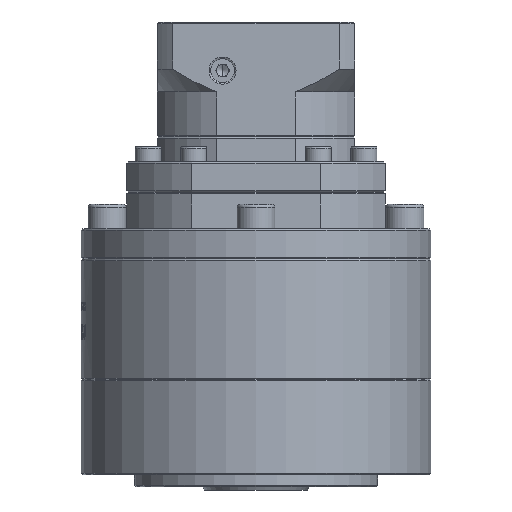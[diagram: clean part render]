
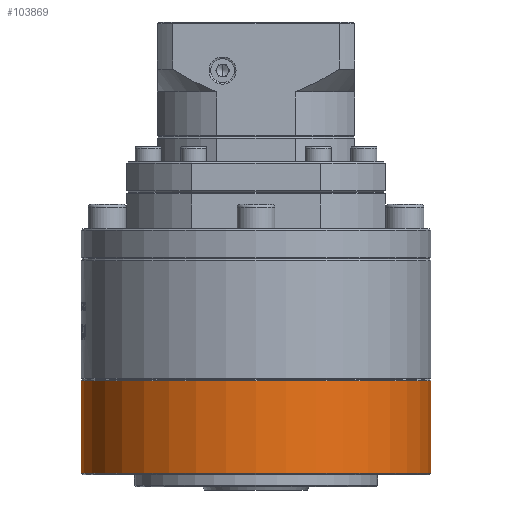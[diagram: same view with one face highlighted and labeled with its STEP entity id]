
A CAD part, left-side view. The second image highlights one B-rep face of the part: STEP entity #103869.
In plain terms, the highlighted cylindrical face has radius 57.5 mm (diameter 115 mm), a partial arc.
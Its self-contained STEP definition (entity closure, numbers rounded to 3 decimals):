
#1457 = CARTESIAN_POINT ( 'NONE',  ( -62.264, -50.367, -126.744 ) ) ;
#2781 = VERTEX_POINT ( 'NONE', #12498 ) ;
#9995 = FACE_OUTER_BOUND ( 'NONE', #44448, .T. ) ;
#11323 = CARTESIAN_POINT ( 'NONE',  ( -62.264, -50.367, -157.244 ) ) ;
#12498 = CARTESIAN_POINT ( 'NONE',  ( -62.264, 64.633, -126.744 ) ) ;
#16187 = EDGE_CURVE ( 'NONE', #30879, #2781, #50716, .T. ) ;
#16917 = CARTESIAN_POINT ( 'NONE',  ( -62.264, 7.133, -144.744 ) ) ;
#20384 = VECTOR ( 'NONE', #57710, 1000. ) ;
#22492 = ORIENTED_EDGE ( 'NONE', *, *, #23731, .T. ) ;
#22743 = VECTOR ( 'NONE', #65053, 1000. ) ;
#23302 = LINE ( 'NONE', #114246, #20384 ) ;
#23731 = EDGE_CURVE ( 'NONE', #28279, #60980, #23302, .T. ) ;
#23950 = ORIENTED_EDGE ( 'NONE', *, *, #34034, .F. ) ;
#27565 = CARTESIAN_POINT ( 'NONE',  ( -62.264, 7.133, -157.244 ) ) ;
#28279 = VERTEX_POINT ( 'NONE', #11323 ) ;
#30879 = VERTEX_POINT ( 'NONE', #62307 ) ;
#33377 = AXIS2_PLACEMENT_3D ( 'NONE', #16917, #63834, #73722 ) ;
#34034 = EDGE_CURVE ( 'NONE', #2781, #60980, #51156, .T. ) ;
#36575 = CARTESIAN_POINT ( 'NONE',  ( -62.264, 64.633, -144.744 ) ) ;
#37016 = DIRECTION ( 'NONE',  ( 0., 1., 0. ) ) ;
#44448 = EDGE_LOOP ( 'NONE', ( #51668, #22492, #23950, #54706 ) ) ;
#50716 = LINE ( 'NONE', #36575, #22743 ) ;
#51156 = CIRCLE ( 'NONE', #91457, 57.5 ) ;
#51520 = DIRECTION ( 'NONE',  ( 0., 0., 1. ) ) ;
#51668 = ORIENTED_EDGE ( 'NONE', *, *, #102685, .T. ) ;
#54706 = ORIENTED_EDGE ( 'NONE', *, *, #16187, .F. ) ;
#57710 = DIRECTION ( 'NONE',  ( 0., 0., 1. ) ) ;
#60980 = VERTEX_POINT ( 'NONE', #1457 ) ;
#62307 = CARTESIAN_POINT ( 'NONE',  ( -62.264, 64.633, -157.244 ) ) ;
#63834 = DIRECTION ( 'NONE',  ( 0., 0., 1. ) ) ;
#65053 = DIRECTION ( 'NONE',  ( 0., 0., 1. ) ) ;
#66404 = CIRCLE ( 'NONE', #106761, 57.5 ) ;
#73722 = DIRECTION ( 'NONE',  ( 0., 1., 0. ) ) ;
#91457 = AXIS2_PLACEMENT_3D ( 'NONE', #108038, #51520, #117542 ) ;
#93597 = DIRECTION ( 'NONE',  ( 0., 0., 1. ) ) ;
#95462 = CYLINDRICAL_SURFACE ( 'NONE', #33377, 57.5 ) ;
#102685 = EDGE_CURVE ( 'NONE', #30879, #28279, #66404, .T. ) ;
#103869 = ADVANCED_FACE ( 'NONE', ( #9995 ), #95462, .T. ) ;
#106761 = AXIS2_PLACEMENT_3D ( 'NONE', #27565, #93597, #37016 ) ;
#108038 = CARTESIAN_POINT ( 'NONE',  ( -62.264, 7.133, -126.744 ) ) ;
#114246 = CARTESIAN_POINT ( 'NONE',  ( -62.264, -50.367, -144.744 ) ) ;
#117542 = DIRECTION ( 'NONE',  ( 0., -1., 0. ) ) ;
